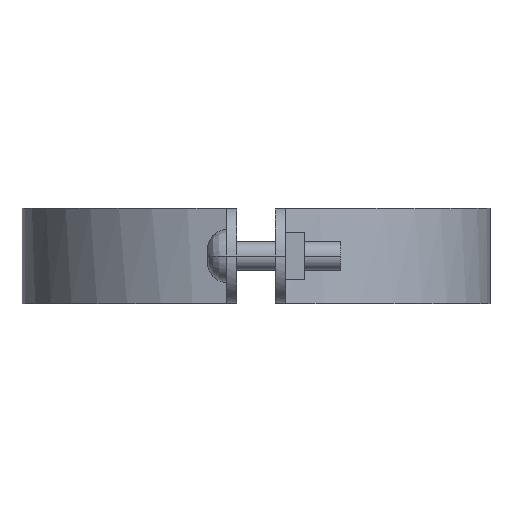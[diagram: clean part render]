
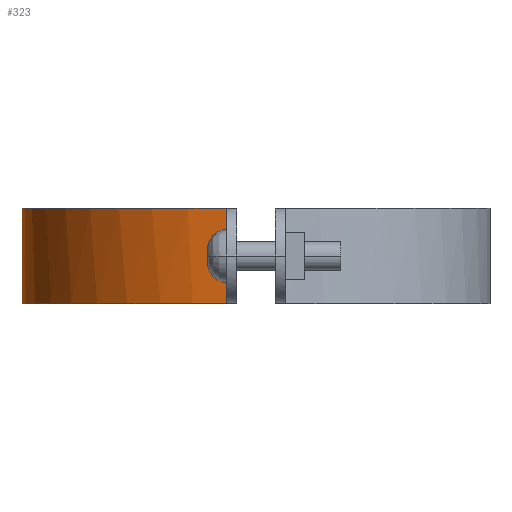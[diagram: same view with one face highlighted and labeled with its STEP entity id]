
A CAD part, left-side view. The second image highlights one B-rep face of the part: STEP entity #323.
In plain terms, the highlighted free-form (B-spline) face has degree [3, 1] with [4, 2] control points.
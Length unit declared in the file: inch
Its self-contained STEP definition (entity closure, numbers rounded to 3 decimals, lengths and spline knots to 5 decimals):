
#323=ADVANCED_FACE('',(#603),#604,.T.);
#603=FACE_OUTER_BOUND('',#1224,.T.);
#604=B_SPLINE_SURFACE_WITH_KNOTS('',3,1,((#1225,#1226),(#1227,#1228),(#1229,#1230),(#1231,#1232)),.UNSPECIFIED.,.F.,.F.,.F.,(4,4),(2,2),(-1.0,-0.0),(0.0,1.25),.UNSPECIFIED.);
#1224=EDGE_LOOP('',(#1951,#1952,#1953,#1954));
#1225=CARTESIAN_POINT('',(3.77947,6.03478,0.0));
#1226=CARTESIAN_POINT('',(3.77947,6.03478,1.25));
#1227=CARTESIAN_POINT('',(2.2321,6.03478,0.0));
#1228=CARTESIAN_POINT('',(2.2321,6.03478,1.25));
#1229=CARTESIAN_POINT('',(0.92639,4.88362,0.0));
#1230=CARTESIAN_POINT('',(0.92639,4.88362,1.25));
#1231=CARTESIAN_POINT('',(0.7325,3.34845,0.0));
#1232=CARTESIAN_POINT('',(0.7325,3.34845,1.25));
#1951=ORIENTED_EDGE('',*,*,#2184,.T.);
#1952=ORIENTED_EDGE('',*,*,#2099,.T.);
#1953=ORIENTED_EDGE('',*,*,#2116,.T.);
#1954=ORIENTED_EDGE('',*,*,#2146,.F.);
#2099=EDGE_CURVE('',#2436,#2438,#2440,.T.);
#2116=EDGE_CURVE('',#2438,#2465,#2468,.T.);
#2146=EDGE_CURVE('',#2512,#2465,#2514,.T.);
#2184=EDGE_CURVE('',#2512,#2436,#2557,.T.);
#2436=VERTEX_POINT('',#2986);
#2438=VERTEX_POINT('',#2989);
#2440=LINE('',#2992,#2993);
#2465=VERTEX_POINT('',#3057);
#2468=B_SPLINE_CURVE_WITH_KNOTS('',3,(#3061,#3062,#3063,#3064),.UNSPECIFIED.,.F.,.F.,(4,4),(0.0,1.0),.UNSPECIFIED.);
#2512=VERTEX_POINT('',#3130);
#2514=LINE('',#3133,#3134);
#2557=B_SPLINE_CURVE_WITH_KNOTS('',3,(#3210,#3211,#3212,#3213),.UNSPECIFIED.,.F.,.F.,(4,4),(-1.0,-0.0),.UNSPECIFIED.);
#2986=CARTESIAN_POINT('',(0.7325,3.34845,0.00011));
#2989=CARTESIAN_POINT('',(0.7325,3.34845,1.24992));
#2992=CARTESIAN_POINT('',(0.7325,3.34845,0.0));
#2993=VECTOR('',#3433,1.0);
#3057=CARTESIAN_POINT('',(3.77947,6.03478,1.24992));
#3061=CARTESIAN_POINT('',(0.7325,3.34845,1.24992));
#3062=CARTESIAN_POINT('',(0.92639,4.88362,1.24992));
#3063=CARTESIAN_POINT('',(2.2321,6.03478,1.24992));
#3064=CARTESIAN_POINT('',(3.77947,6.03478,1.24992));
#3130=CARTESIAN_POINT('',(3.77947,6.03478,0.00011));
#3133=CARTESIAN_POINT('',(3.77947,6.03478,0.0));
#3134=VECTOR('',#3464,1.0);
#3210=CARTESIAN_POINT('',(3.77947,6.03478,0.00011));
#3211=CARTESIAN_POINT('',(2.2321,6.03478,0.00011));
#3212=CARTESIAN_POINT('',(0.92639,4.88362,0.00011));
#3213=CARTESIAN_POINT('',(0.7325,3.34845,0.00011));
#3433=DIRECTION('',(0.0,0.0,1.0));
#3464=DIRECTION('',(0.0,0.0,1.0));
